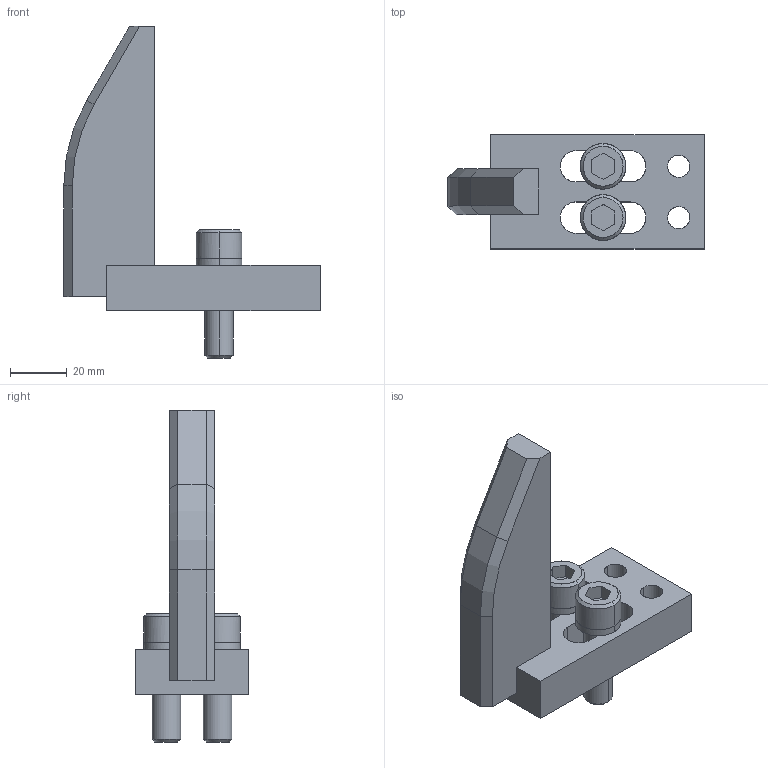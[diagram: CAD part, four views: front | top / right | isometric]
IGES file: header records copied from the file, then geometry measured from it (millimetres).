
Global section: file name: E:\UnigraphicsGraphicData\MISUMI_PRESS-PARTS\IGES\3d_enstc100-40-m10_01434_r00.igs; native system: NX V5.0; preprocessor: UGS NX IGES V5.0; author: MISUMI; date: 20110105.160625; units: millimetre
Bounding box: 90 x 40 x 116.5 mm (x, y, z)
Surface area: 23706.9 mm2 (no closed solid volume)
Topology: 0 solids, 0 shells, 80 faces, 518 edges, 518 vertices
Faces by surface type: bspline 80
